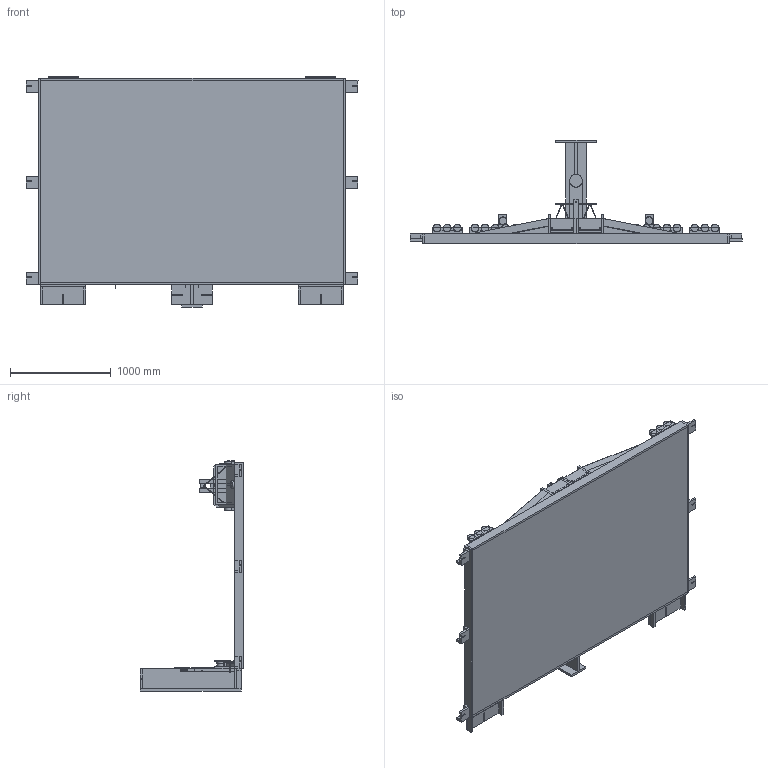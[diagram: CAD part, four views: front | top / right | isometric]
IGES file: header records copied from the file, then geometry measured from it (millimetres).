
Global section: file name: TableElements2019 v63; native system: unknown; preprocessor: unknown; author: grinwald; organization: unknown; date: 20181010.075101; units: millimetre
Bounding box: 3288 x 1022 x 2279 mm (x, y, z)
Volume: 221764796.5 mm3; surface area: 38732765.1 mm2
Topology: 179 solids, 179 shells, 1166 faces, 2478 edges, 1676 vertices
Faces by surface type: bspline 1166
